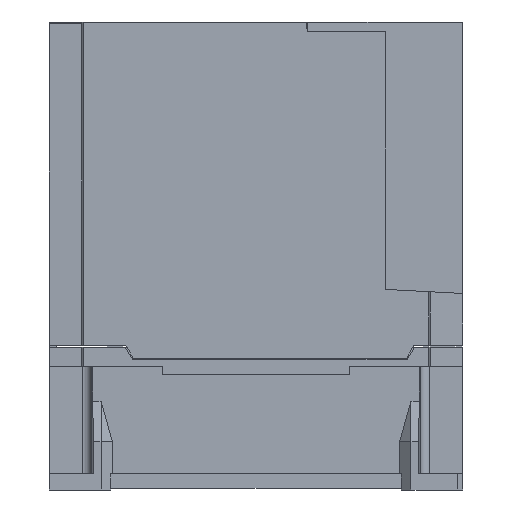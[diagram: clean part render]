
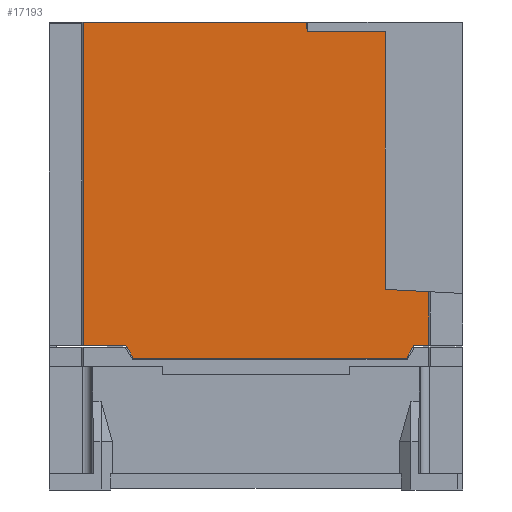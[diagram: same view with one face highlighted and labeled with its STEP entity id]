
A CAD part, left-side view. The second image highlights one B-rep face of the part: STEP entity #17193.
In plain terms, the highlighted planar face has unit normal (-1, 0, 0).
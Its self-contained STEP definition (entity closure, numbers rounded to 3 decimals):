
#2799=DIRECTION('',(0.,-1.,0.));
#2800=VECTOR('',#2799,4.54);
#2801=CARTESIAN_POINT('',(-54.,15.091,0.5));
#2802=LINE('',#2801,#2800);
#2803=DIRECTION('',(0.,-0.5,0.866));
#2804=VECTOR('',#2803,4.619);
#2805=CARTESIAN_POINT('',(-54.,17.4,-3.5));
#2806=LINE('',#2805,#2804);
#2807=DIRECTION('',(0.,-1.,0.));
#2808=VECTOR('',#2807,84.6);
#2809=CARTESIAN_POINT('',(-54.,102.,-3.5));
#2810=LINE('',#2809,#2808);
#2811=DIRECTION('',(0.,-0.5,-0.866));
#2812=VECTOR('',#2811,4.619);
#2813=CARTESIAN_POINT('',(-54.,104.309,0.5));
#2814=LINE('',#2813,#2812);
#2815=DIRECTION('',(0.,-1.,0.));
#2816=VECTOR('',#2815,13.14);
#2817=CARTESIAN_POINT('',(-54.,117.45,0.5));
#2818=LINE('',#2817,#2816);
#2819=DIRECTION('',(0.,0.,1.));
#2820=VECTOR('',#2819,100.2);
#2821=CARTESIAN_POINT('',(-54.,117.45,0.5));
#2822=LINE('',#2821,#2820);
#2823=DIRECTION('',(0.,-0.052,-0.999));
#2824=VECTOR('',#2823,3.004);
#2825=CARTESIAN_POINT('',(-54.,48.32,100.7));
#2826=LINE('',#2825,#2824);
#2827=DIRECTION('',(0.,1.,0.));
#2828=VECTOR('',#2827,24.162);
#2829=CARTESIAN_POINT('',(-54.,24.,97.7));
#2830=LINE('',#2829,#2828);
#2831=DIRECTION('',(0.,0.999,0.052));
#2832=VECTOR('',#2831,13.468);
#2833=CARTESIAN_POINT('',(-54.,10.55,17.153));
#2834=LINE('',#2833,#2832);
#2835=DIRECTION('',(0.,0.,1.));
#2836=VECTOR('',#2835,16.653);
#2837=CARTESIAN_POINT('',(-54.,10.55,0.5));
#2838=LINE('',#2837,#2836);
#2979=DIRECTION('',(0.,0.,1.));
#2980=VECTOR('',#2979,79.842);
#2981=CARTESIAN_POINT('',(-54.,24.,17.858));
#2982=LINE('',#2981,#2980);
#4885=DIRECTION('',(0.,-1.,0.));
#4886=VECTOR('',#4885,69.13);
#4887=CARTESIAN_POINT('',(-54.,117.45,100.7));
#4888=LINE('',#4887,#4886);
#10199=CARTESIAN_POINT('',(-54.,102.,-3.5));
#10200=CARTESIAN_POINT('',(-54.,17.4,-3.5));
#10201=VERTEX_POINT('',#10199);
#10202=VERTEX_POINT('',#10200);
#10211=CARTESIAN_POINT('',(-54.,15.091,0.5));
#10212=VERTEX_POINT('',#10211);
#10213=CARTESIAN_POINT('',(-54.,104.309,0.5));
#10214=VERTEX_POINT('',#10213);
#10235=CARTESIAN_POINT('',(-54.,24.,17.858));
#10236=VERTEX_POINT('',#10235);
#10291=CARTESIAN_POINT('',(-54.,117.45,0.5));
#10292=VERTEX_POINT('',#10291);
#10293=CARTESIAN_POINT('',(-54.,10.55,0.5));
#10294=VERTEX_POINT('',#10293);
#10528=CARTESIAN_POINT('',(-54.,10.55,17.153));
#10529=VERTEX_POINT('',#10528);
#10648=CARTESIAN_POINT('',(-54.,117.45,100.7));
#10649=CARTESIAN_POINT('',(-54.,48.32,100.7));
#10650=VERTEX_POINT('',#10648);
#10651=VERTEX_POINT('',#10649);
#10772=CARTESIAN_POINT('',(-54.,24.,97.7));
#10774=VERTEX_POINT('',#10772);
#10776=CARTESIAN_POINT('',(-54.,48.162,97.7));
#10777=VERTEX_POINT('',#10776);
#17166=CARTESIAN_POINT('',(-54.,128.,0.));
#17167=DIRECTION('',(-1.,0.,0.));
#17168=DIRECTION('',(0.,-1.,0.));
#17169=AXIS2_PLACEMENT_3D('',#17166,#17167,#17168);
#17170=PLANE('',#17169);
#17171=ORIENTED_EDGE('',*,*,#15660,.F.);
#17173=ORIENTED_EDGE('',*,*,#17172,.F.);
#17175=ORIENTED_EDGE('',*,*,#17174,.F.);
#17176=ORIENTED_EDGE('',*,*,#17152,.F.);
#17177=ORIENTED_EDGE('',*,*,#15729,.F.);
#17179=ORIENTED_EDGE('',*,*,#17178,.T.);
#17181=ORIENTED_EDGE('',*,*,#17180,.T.);
#17183=ORIENTED_EDGE('',*,*,#17182,.T.);
#17185=ORIENTED_EDGE('',*,*,#17184,.F.);
#17187=ORIENTED_EDGE('',*,*,#17186,.F.);
#17188=ORIENTED_EDGE('',*,*,#16305,.F.);
#17190=ORIENTED_EDGE('',*,*,#17189,.F.);
#17191=EDGE_LOOP('',(#17171,#17173,#17175,#17176,#17177,#17179,#17181,#17183,
#17185,#17187,#17188,#17190));
#17192=FACE_OUTER_BOUND('',#17191,.F.);
#17193=ADVANCED_FACE('',(#17192),#17170,.T.);
#15660=EDGE_CURVE('',#10212,#10294,#2802,.T.);
#15729=EDGE_CURVE('',#10292,#10214,#2818,.T.);
#16305=EDGE_CURVE('',#10529,#10236,#2834,.T.);
#17152=EDGE_CURVE('',#10214,#10201,#2814,.T.);
#17172=EDGE_CURVE('',#10202,#10212,#2806,.T.);
#17174=EDGE_CURVE('',#10201,#10202,#2810,.T.);
#17178=EDGE_CURVE('',#10292,#10650,#2822,.T.);
#17180=EDGE_CURVE('',#10650,#10651,#4888,.T.);
#17182=EDGE_CURVE('',#10651,#10777,#2826,.T.);
#17184=EDGE_CURVE('',#10774,#10777,#2830,.T.);
#17186=EDGE_CURVE('',#10236,#10774,#2982,.T.);
#17189=EDGE_CURVE('',#10294,#10529,#2838,.T.);
